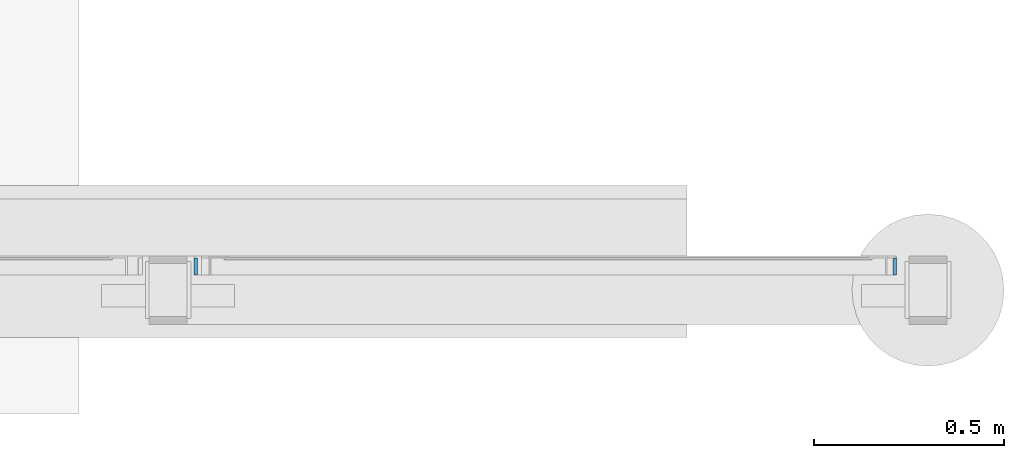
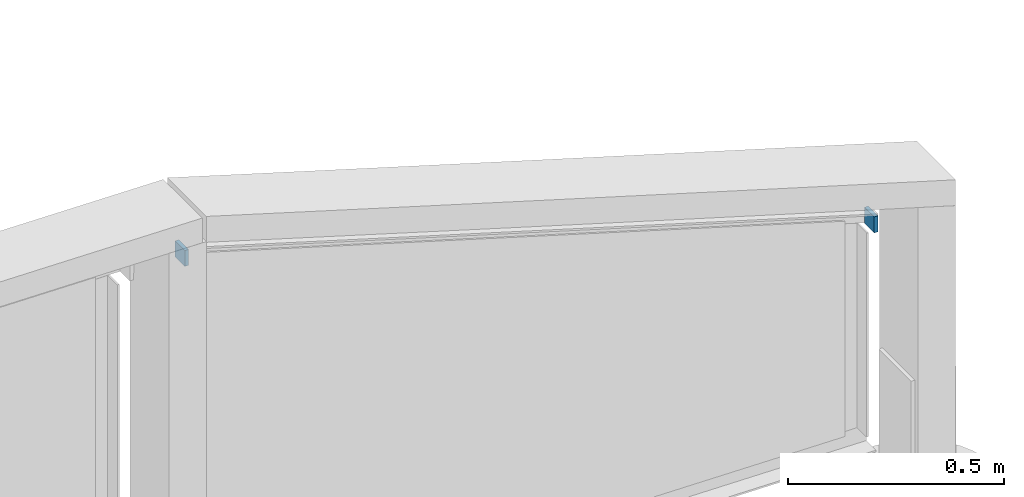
# One storey, part 63 of 65: 2 beams.
"""IFC2X3 building model written with IfcOpenShell, lengths in millimetres."""

from ifc_helpers import new_model, si_unit, frame, origin_with_axes, place, context, subcontext, project, spatial, faceted_brep, material, type_object, element, save


model = new_model("IFC2X3")

# Units and contexts
model_context = context("Model", 3, precision=1e-05, world=origin_with_axes())
body_context = subcontext(model_context, "Body", "Model", "MODEL_VIEW")
ifc_project = project(units=[si_unit("LENGTHUNIT", "METRE", prefix="MILLI"), si_unit("AREAUNIT", "SQUARE_METRE"), si_unit("VOLUMEUNIT", "CUBIC_METRE"), si_unit("MASSUNIT", "GRAM", prefix="KILO"), si_unit("TIMEUNIT", "SECOND"), si_unit("PLANEANGLEUNIT", "RADIAN"), si_unit("SOLIDANGLEUNIT", "STERADIAN"), si_unit("THERMODYNAMICTEMPERATUREUNIT", "DEGREE_CELSIUS"), si_unit("LUMINOUSINTENSITYUNIT", "LUMEN")], contexts=[model_context])

# Site, building, storey
site_placement = place(None, origin_with_axes())
site = spatial("IfcSite", under=ifc_project, at=site_placement, Name="Undefined", CompositionType="ELEMENT")
building_placement = place(site_placement, origin_with_axes())
building = spatial("IfcBuilding", under=site, at=building_placement, Name="Undefined", CompositionType="ELEMENT")
storey_placement = place(building_placement, origin_with_axes())
storey = spatial("IfcBuildingStorey", under=building, at=storey_placement, Name="Undefined", CompositionType="ELEMENT", Elevation=0.0)

# Beams
ifc_material = material(Name="STEEL/S235JR")
beam_type = type_object("IfcBeamType", Name="PL45*10", PredefinedType="NOTDEFINED")
for number, where, z_axis, x_axis, name in (
    (1, (19912.6101777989, 20210.0099999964, 3797.29636618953), (0.0, 0.0, 1.0), (0.0, -1.0, 0.0), "BEAM"),
    (2, (18072.4947452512, 20210.0099999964, 4346.75135175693), (0.0, 0.0, 1.0), (0.0, -1.0, 0.0), "BEAM"),
):
    element("IfcBeam", number, at=place(storey_placement, frame(where, z_axis=z_axis, x_axis=x_axis)), inside=storey, type_object=beam_type, material=ifc_material, Name=name, ObjectType="PL45*10", context=body_context, shape_type="Brep", body=[
        faceted_brep([(0.0, 5.0, -22.5), (0.0, 5.0, 22.5), (45.0, 5.0, 22.5), (45.0, 5.0, -22.5), (0.0, -5.0, 22.5), (45.0, -5.0, 22.5), (0.0, -5.0, -22.5000000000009), (45.0, -5.0, -22.5000000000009)], [[[0, 1, 2, 3]], [[1, 4, 5, 2]], [[4, 6, 7, 5]], [[6, 0, 3, 7]], [[5, 7, 3, 2]], [[6, 4, 1, 0]]]),
    ])

save(model, "model.ifc")
